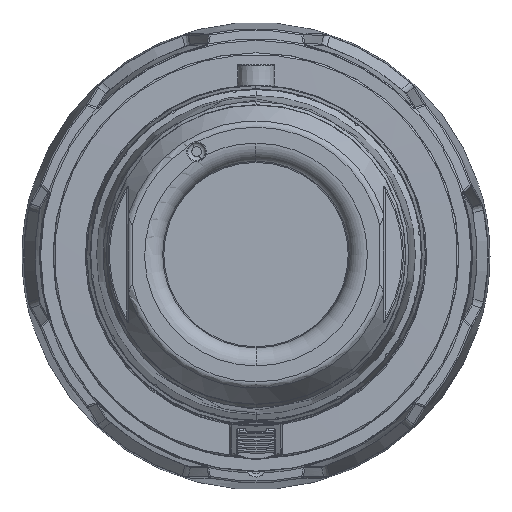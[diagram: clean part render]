
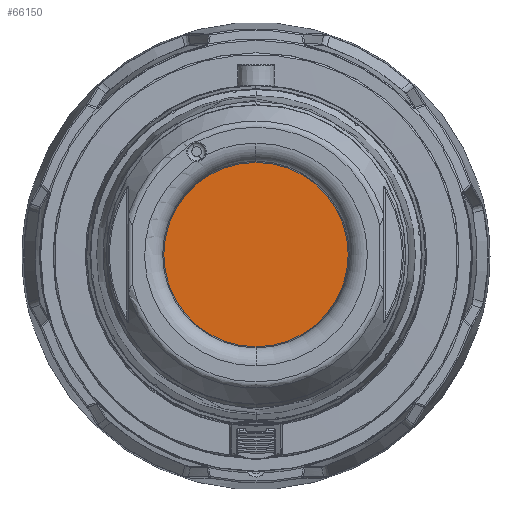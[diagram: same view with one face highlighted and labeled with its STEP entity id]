
A CAD part, top view. The second image highlights one B-rep face of the part: STEP entity #66150.
In plain terms, the highlighted planar face has unit normal (0, 0, 1).
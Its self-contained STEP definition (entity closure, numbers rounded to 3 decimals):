
#11297=CARTESIAN_POINT('',(0.,0.,208.02));
#11298=DIRECTION('',(0.,0.,1.));
#11299=DIRECTION('',(0.,-1.,0.));
#11300=AXIS2_PLACEMENT_3D('',#11297,#11298,#11299);
#11307=CARTESIAN_POINT('',(0.,0.,208.02));
#11308=DIRECTION('',(0.,0.,1.));
#11309=DIRECTION('',(0.,1.,0.));
#11310=AXIS2_PLACEMENT_3D('',#11307,#11308,#11309);
#45723=CARTESIAN_POINT('',(0.,-25.214,208.02));
#45724=CARTESIAN_POINT('',(0.,25.214,208.02));
#45725=VERTEX_POINT('',#45723);
#45726=VERTEX_POINT('',#45724);
#66140=CARTESIAN_POINT('',(0.,0.,208.02));
#66141=DIRECTION('',(0.,0.,-1.));
#66142=DIRECTION('',(1.,0.,0.));
#66143=AXIS2_PLACEMENT_3D('',#66140,#66141,#66142);
#66144=PLANE('2323',#66143);
#66145=ORIENTED_EDGE('8573',*,*,#66118,.F.);
#66147=ORIENTED_EDGE('8574',*,*,#66146,.F.);
#66148=EDGE_LOOP('2323',(#66145,#66147));
#66149=FACE_OUTER_BOUND('2323',#66148,.F.);
#11301=CIRCLE('8573',#11300,25.214);
#11311=CIRCLE('8574',#11310,25.214);
#66118=EDGE_CURVE('8573',#45725,#45726,#11301,.T.);
#66146=EDGE_CURVE('8574',#45726,#45725,#11311,.T.);
#66150=ADVANCED_FACE('2323',(#66149),#66144,.F.);
